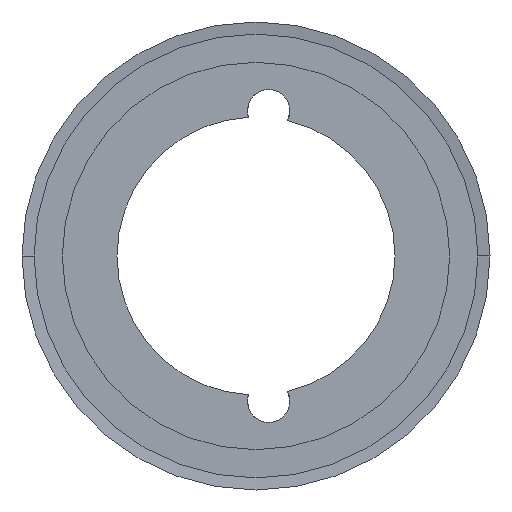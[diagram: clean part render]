
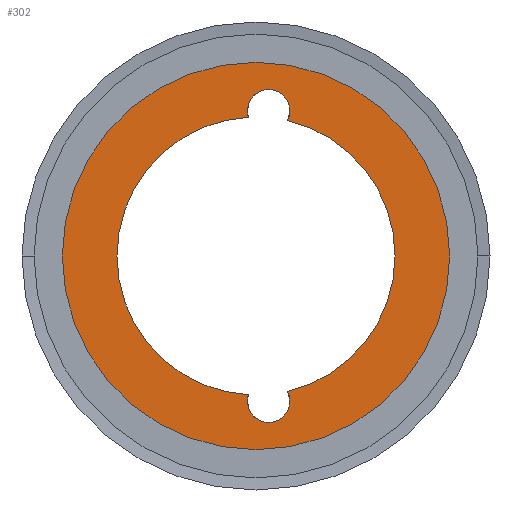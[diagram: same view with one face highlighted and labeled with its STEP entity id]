
A CAD part, left-side view. The second image highlights one B-rep face of the part: STEP entity #302.
In plain terms, the highlighted planar face has unit normal (-1, 0, 0).
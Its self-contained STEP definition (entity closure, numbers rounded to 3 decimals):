
#302 = ADVANCED_FACE( '', ( #763, #764 ), #765, .T. );
#763 = FACE_BOUND( '', #1225, .T. );
#764 = FACE_OUTER_BOUND( '', #1226, .T. );
#765 = PLANE( '', #1227 );
#1225 = EDGE_LOOP( '', ( #3209, #3210, #3211, #3212, #3213, #3214, #3215, #3216, #3217, #3218 ) );
#1226 = EDGE_LOOP( '', ( #3219, #3220 ) );
#1227 = AXIS2_PLACEMENT_3D( '', #3221, #3222, #3223 );
#3209 = ORIENTED_EDGE( '', *, *, #3281, .T. );
#3210 = ORIENTED_EDGE( '', *, *, #3284, .T. );
#3211 = ORIENTED_EDGE( '', *, *, #3283, .T. );
#3212 = ORIENTED_EDGE( '', *, *, #3276, .F. );
#3213 = ORIENTED_EDGE( '', *, *, #3288, .F. );
#3214 = ORIENTED_EDGE( '', *, *, #3291, .T. );
#3215 = ORIENTED_EDGE( '', *, *, #3267, .T. );
#3216 = ORIENTED_EDGE( '', *, *, #3262, .T. );
#3217 = ORIENTED_EDGE( '', *, *, #3289, .F. );
#3218 = ORIENTED_EDGE( '', *, *, #3274, .F. );
#3219 = ORIENTED_EDGE( '', *, *, #3227, .T. );
#3220 = ORIENTED_EDGE( '', *, *, #3879, .T. );
#3221 = CARTESIAN_POINT( '', ( 0., 30.921, 0. ) );
#3222 = DIRECTION( '', ( -1., 0., 0. ) );
#3223 = DIRECTION( '', ( 0., 1., 0. ) );
#3227 = EDGE_CURVE( '', #3881, #3885, #3887, .T. );
#3262 = EDGE_CURVE( '', #3945, #3948, #3950, .T. );
#3267 = EDGE_CURVE( '', #3952, #3945, #3959, .T. );
#3274 = EDGE_CURVE( '', #3970, #3960, #3972, .T. );
#3276 = EDGE_CURVE( '', #3973, #3976, #3977, .T. );
#3281 = EDGE_CURVE( '', #3970, #3983, #3985, .T. );
#3283 = EDGE_CURVE( '', #3986, #3976, #3988, .T. );
#3284 = EDGE_CURVE( '', #3983, #3986, #3989, .T. );
#3288 = EDGE_CURVE( '', #3992, #3973, #3994, .T. );
#3289 = EDGE_CURVE( '', #3960, #3948, #3995, .T. );
#3291 = EDGE_CURVE( '', #3992, #3952, #3997, .T. );
#3879 = EDGE_CURVE( '', #3885, #3881, #4969, .T. );
#3881 = VERTEX_POINT( '', #4971 );
#3885 = VERTEX_POINT( '', #4976 );
#3887 = CIRCLE( '', #4979, 36. );
#3945 = VERTEX_POINT( '', #5087 );
#3948 = VERTEX_POINT( '', #5091 );
#3950 = CIRCLE( '', #5102, 3.95 );
#3952 = VERTEX_POINT( '', #5104 );
#3959 = CIRCLE( '', #5130, 3.95 );
#3960 = VERTEX_POINT( '', #5131 );
#3970 = VERTEX_POINT( '', #5185 );
#3972 = CIRCLE( '', #5196, 25.843 );
#3973 = VERTEX_POINT( '', #5197 );
#3976 = VERTEX_POINT( '', #5201 );
#3977 = CIRCLE( '', #5202, 25.843 );
#3983 = VERTEX_POINT( '', #5226 );
#3985 = CIRCLE( '', #5229, 3.95 );
#3986 = VERTEX_POINT( '', #5230 );
#3988 = CIRCLE( '', #5233, 3.95 );
#3989 = CIRCLE( '', #5234, 3.95 );
#3992 = VERTEX_POINT( '', #5237 );
#3994 = CIRCLE( '', #5248, 25.843 );
#3995 = CIRCLE( '', #5249, 25.843 );
#3997 = CIRCLE( '', #5251, 3.95 );
#4969 = CIRCLE( '', #6543, 36. );
#4971 = CARTESIAN_POINT( '', ( 0., 36., 0. ) );
#4976 = CARTESIAN_POINT( '', ( 0., -36., 0. ) );
#4979 = AXIS2_PLACEMENT_3D( '', #6549, #6550, #6551 );
#5087 = CARTESIAN_POINT( '', ( 0., 1.598, -26.985 ) );
#5091 = CARTESIAN_POINT( '', ( 0., 1.417, -25.804 ) );
#5102 = AXIS2_PLACEMENT_3D( '', #6611, #6612, #6613 );
#5104 = CARTESIAN_POINT( '', ( 0., -6.302, -26.985 ) );
#5130 = AXIS2_PLACEMENT_3D( '', #6618, #6619, #6620 );
#5131 = CARTESIAN_POINT( '', ( 0., 25.843, 0. ) );
#5185 = CARTESIAN_POINT( '', ( 0., 1.417, 25.804 ) );
#5196 = AXIS2_PLACEMENT_3D( '', #6625, #6626, #6627 );
#5197 = CARTESIAN_POINT( '', ( 0., -25.843, 0. ) );
#5201 = CARTESIAN_POINT( '', ( 0., -5.86, 25.17 ) );
#5202 = AXIS2_PLACEMENT_3D( '', #6629, #6630, #6631 );
#5226 = CARTESIAN_POINT( '', ( 0., 1.598, 26.985 ) );
#5229 = AXIS2_PLACEMENT_3D( '', #6636, #6637, #6638 );
#5230 = CARTESIAN_POINT( '', ( 0., -6.302, 26.985 ) );
#5233 = AXIS2_PLACEMENT_3D( '', #6640, #6641, #6642 );
#5234 = AXIS2_PLACEMENT_3D( '', #6643, #6644, #6645 );
#5237 = CARTESIAN_POINT( '', ( 0., -5.86, -25.17 ) );
#5248 = AXIS2_PLACEMENT_3D( '', #6652, #6653, #6654 );
#5249 = AXIS2_PLACEMENT_3D( '', #6655, #6656, #6657 );
#5251 = AXIS2_PLACEMENT_3D( '', #6661, #6662, #6663 );
#6543 = AXIS2_PLACEMENT_3D( '', #7785, #7786, #7787 );
#6549 = CARTESIAN_POINT( '', ( 0., 0., 0. ) );
#6550 = DIRECTION( '', ( -1., 0., 0. ) );
#6551 = DIRECTION( '', ( 0., 1., 0. ) );
#6611 = CARTESIAN_POINT( '', ( 0., -2.352, -26.985 ) );
#6612 = DIRECTION( '', ( 1., 0., 0. ) );
#6613 = DIRECTION( '', ( 0., -1., 0. ) );
#6618 = CARTESIAN_POINT( '', ( 0., -2.352, -26.985 ) );
#6619 = DIRECTION( '', ( 1., 0., 0. ) );
#6620 = DIRECTION( '', ( 0., -1., 0. ) );
#6625 = CARTESIAN_POINT( '', ( 0., 0., 0. ) );
#6626 = DIRECTION( '', ( -1., 0., 0. ) );
#6627 = DIRECTION( '', ( 0., 1., 0. ) );
#6629 = CARTESIAN_POINT( '', ( 0., 0., 0. ) );
#6630 = DIRECTION( '', ( -1., 0., 0. ) );
#6631 = DIRECTION( '', ( 0., 1., 0. ) );
#6636 = CARTESIAN_POINT( '', ( 0., -2.352, 26.985 ) );
#6637 = DIRECTION( '', ( 1., 0., 0. ) );
#6638 = DIRECTION( '', ( 0., -1., 0. ) );
#6640 = CARTESIAN_POINT( '', ( 0., -2.352, 26.985 ) );
#6641 = DIRECTION( '', ( 1., 0., 0. ) );
#6642 = DIRECTION( '', ( 0., -1., 0. ) );
#6643 = CARTESIAN_POINT( '', ( 0., -2.352, 26.985 ) );
#6644 = DIRECTION( '', ( 1., 0., 0. ) );
#6645 = DIRECTION( '', ( 0., -1., 0. ) );
#6652 = CARTESIAN_POINT( '', ( 0., 0., 0. ) );
#6653 = DIRECTION( '', ( -1., 0., 0. ) );
#6654 = DIRECTION( '', ( 0., 1., 0. ) );
#6655 = CARTESIAN_POINT( '', ( 0., 0., 0. ) );
#6656 = DIRECTION( '', ( -1., 0., 0. ) );
#6657 = DIRECTION( '', ( 0., 1., 0. ) );
#6661 = CARTESIAN_POINT( '', ( 0., -2.352, -26.985 ) );
#6662 = DIRECTION( '', ( 1., 0., 0. ) );
#6663 = DIRECTION( '', ( 0., -1., 0. ) );
#7785 = CARTESIAN_POINT( '', ( 0., 0., 0. ) );
#7786 = DIRECTION( '', ( -1., 0., 0. ) );
#7787 = DIRECTION( '', ( 0., 1., 0. ) );
